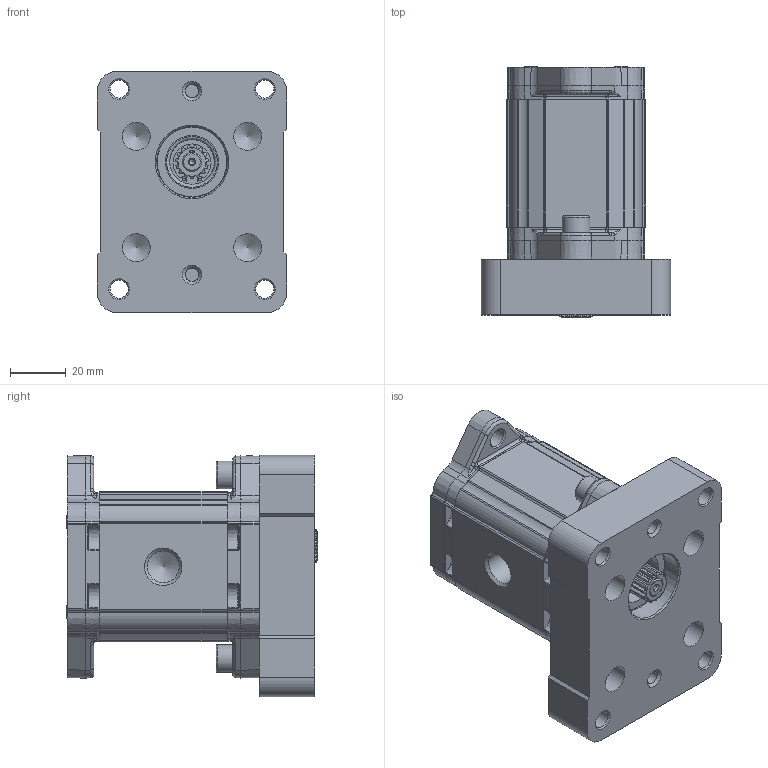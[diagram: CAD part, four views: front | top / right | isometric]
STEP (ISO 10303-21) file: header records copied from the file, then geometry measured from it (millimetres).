
FILE_DESCRIPTION(/* description */ ('Unknown'),/* implementation_level */ '2;1');
FILE_NAME(/* name */ 'X0I1331ABBA',/* time_stamp */ '2026-05-25T17:07:13+02:00',/* author */ ('Unknown'),/* organization */ ('Unknown'),/* preprocessor_version */ 'ST-DEVELOPER v16.7',/* originating_system */ 'Solid Edge',/* authorisation */ 'Unknown');
FILE_SCHEMA (('AUTOMOTIVE_DESIGN {1 0 10303 214 3 1 1}'));
Products named in the file (5): X0I1331ABBA; X0I31; 0X; X0BBH46; XI003-A
Assembly tree (4 placements, depth 2):
  X0I1331ABBA
    X0I31
    0X
    X0BBH46
    XI003-A
Bounding box: 68 x 90.3 x 86.7 mm (x, y, z)
Volume: 261772.3 mm3; surface area: 64628.1 mm2
Topology: 6 solids, 18 shells, 1829 faces, 4603 edges, 2782 vertices
Faces by surface type: cylinder 604, plane 494, bspline 294, cone 267, torus 114, sphere 56
Full cylindrical faces by diameter (mm): 1.053 x2, 2 x2, 4.917 x2, 6 x14, 6.5 x6, 6.518 x8, 6.545 x4, 7.16 x1, 7.5 x2, 7.92 x2, 8 x2, 9.318 x1, 10 x10, 10.445 x1, 10.5 x4, 11 x1, 11.445 x2, 13 x1, 14 x2, 16 x1, 16.2 x1, 16.8 x1, 19 x1, 22 x3, 25.303 x1, 25.4 x1, 25.5 x1
Entity records: 97801 total; most frequent: CARTESIAN_POINT 44651, ORIENTED_EDGE 8450, DIRECTION 8092, EDGE_CURVE 4225, AXIS2_PLACEMENT_3D 3355, VERTEX_POINT 2684, FACE_BOUND 2165, EDGE_LOOP 2157
